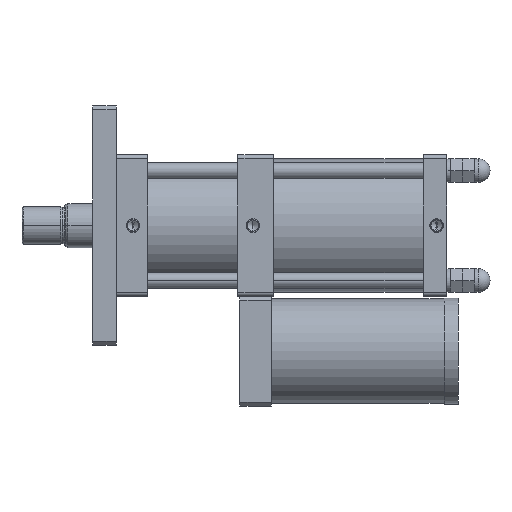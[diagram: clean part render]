
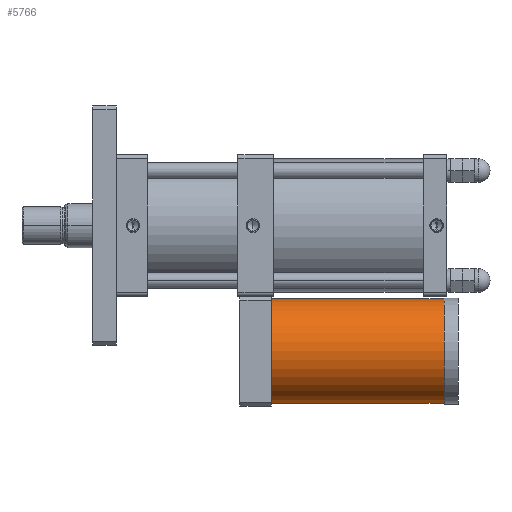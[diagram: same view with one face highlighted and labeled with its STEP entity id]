
A CAD part, front view. The second image highlights one B-rep face of the part: STEP entity #5766.
In plain terms, the highlighted cylindrical face has radius 66.5 mm (diameter 133 mm), a partial arc.
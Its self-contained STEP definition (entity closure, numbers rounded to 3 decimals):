
#35 = DIRECTION ( 'NONE',  ( -1., 0., 0. ) ) ;
#388 = DIRECTION ( 'NONE',  ( 0., 0., 1. ) ) ;
#827 = VERTEX_POINT ( 'NONE', #6596 ) ;
#929 = ORIENTED_EDGE ( 'NONE', *, *, #7084, .F. ) ;
#969 = LINE ( 'NONE', #2442, #5121 ) ;
#1098 = DIRECTION ( 'NONE',  ( 1., 0., 0. ) ) ;
#1329 = ORIENTED_EDGE ( 'NONE', *, *, #8797, .T. ) ;
#1429 = CARTESIAN_POINT ( 'NONE',  ( 317.5, 0., -93.5 ) ) ;
#2133 = VERTEX_POINT ( 'NONE', #1429 ) ;
#2442 = CARTESIAN_POINT ( 'NONE',  ( 537.5, 0., -93.5 ) ) ;
#2640 = FACE_OUTER_BOUND ( 'NONE', #8122, .T. ) ;
#2846 = ORIENTED_EDGE ( 'NONE', *, *, #9045, .F. ) ;
#3487 = ORIENTED_EDGE ( 'NONE', *, *, #8905, .T. ) ;
#3565 = DIRECTION ( 'NONE',  ( -1., 0., 0. ) ) ;
#3805 = CIRCLE ( 'NONE', #3853, 66.5 ) ;
#3823 = LINE ( 'NONE', #5925, #9579 ) ;
#3853 = AXIS2_PLACEMENT_3D ( 'NONE', #9131, #4645, #9884 ) ;
#4645 = DIRECTION ( 'NONE',  ( 1., 0., 0. ) ) ;
#4712 = VERTEX_POINT ( 'NONE', #5520 ) ;
#5063 = AXIS2_PLACEMENT_3D ( 'NONE', #7333, #3565, #388 ) ;
#5121 = VECTOR ( 'NONE', #35, 1000. ) ;
#5520 = CARTESIAN_POINT ( 'NONE',  ( 537.5, 0., -93.5 ) ) ;
#5747 = CARTESIAN_POINT ( 'NONE',  ( 537.5, 0., -160. ) ) ;
#5766 = ADVANCED_FACE ( 'NONE', ( #2640 ), #8455, .T. ) ;
#5925 = CARTESIAN_POINT ( 'NONE',  ( 537.5, 0., -226.5 ) ) ;
#6188 = CARTESIAN_POINT ( 'NONE',  ( 537.5, 0., -226.5 ) ) ;
#6200 = AXIS2_PLACEMENT_3D ( 'NONE', #5747, #1098, #6501 ) ;
#6501 = DIRECTION ( 'NONE',  ( 0., 0., -1. ) ) ;
#6582 = VERTEX_POINT ( 'NONE', #6188 ) ;
#6596 = CARTESIAN_POINT ( 'NONE',  ( 317.5, 0., -226.5 ) ) ;
#6659 = DIRECTION ( 'NONE',  ( -1., 0., 0. ) ) ;
#7084 = EDGE_CURVE ( 'NONE', #6582, #827, #3823, .T. ) ;
#7333 = CARTESIAN_POINT ( 'NONE',  ( 537.5, 0., -160. ) ) ;
#7936 = CIRCLE ( 'NONE', #6200, 66.5 ) ;
#8122 = EDGE_LOOP ( 'NONE', ( #929, #2846, #3487, #1329 ) ) ;
#8455 = CYLINDRICAL_SURFACE ( 'NONE', #5063, 66.5 ) ;
#8797 = EDGE_CURVE ( 'NONE', #2133, #827, #3805, .T. ) ;
#8905 = EDGE_CURVE ( 'NONE', #4712, #2133, #969, .T. ) ;
#9045 = EDGE_CURVE ( 'NONE', #4712, #6582, #7936, .T. ) ;
#9131 = CARTESIAN_POINT ( 'NONE',  ( 317.5, 0., -160. ) ) ;
#9579 = VECTOR ( 'NONE', #6659, 1000. ) ;
#9884 = DIRECTION ( 'NONE',  ( 0., 0., -1. ) ) ;
